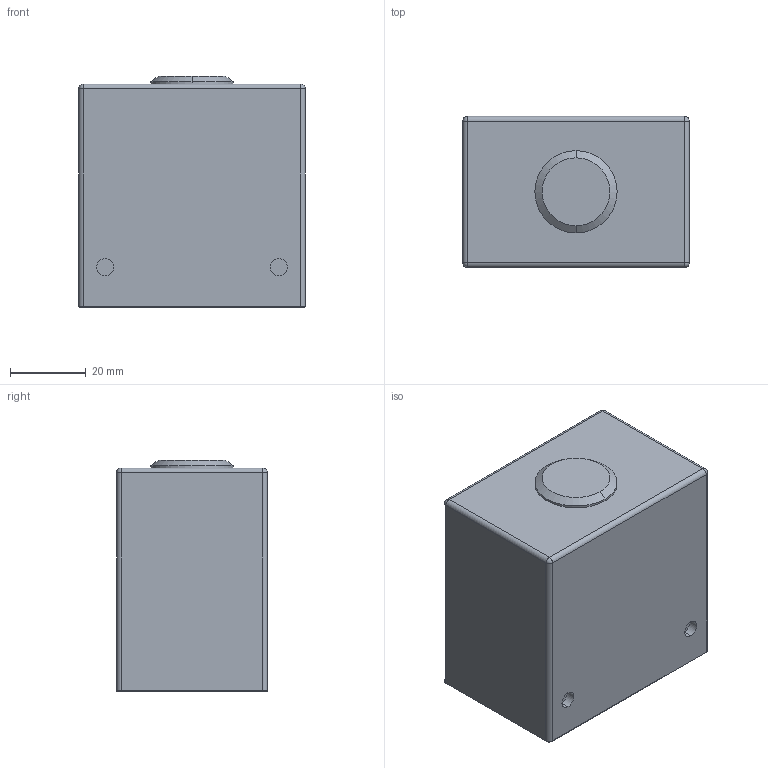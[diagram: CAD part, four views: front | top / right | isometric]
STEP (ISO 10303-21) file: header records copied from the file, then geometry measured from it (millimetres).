
FILE_DESCRIPTION (( 'STEP AP214' ), '1' );
FILE_NAME ('I-Ching-interruttore-1.STEP', '2021-12-15T16:21:30', ( '' ), ( '' ), 'SwSTEP 2.0', 'SolidWorks 2021', '' );
FILE_SCHEMA (( 'AUTOMOTIVE_DESIGN' ));
Length unit declared in the file: millimetre
Products named in the file (1): I-Ching-interruttore-1
Bounding box: 60 x 40 x 61.2 mm (x, y, z)
Volume: 142512.2 mm3; surface area: 16518.5 mm2
Topology: 1 solids, 1 shells, 37 faces, 78 edges, 42 vertices
Faces by surface type: cylinder 18, plane 9, sphere 4, torus 4, cone 2
Entity records: 988 total; most frequent: DIRECTION 192, CARTESIAN_POINT 154, ORIENTED_EDGE 148, AXIS2_PLACEMENT_3D 80, EDGE_CURVE 74, VERTEX_POINT 42, CIRCLE 42, EDGE_LOOP 40
